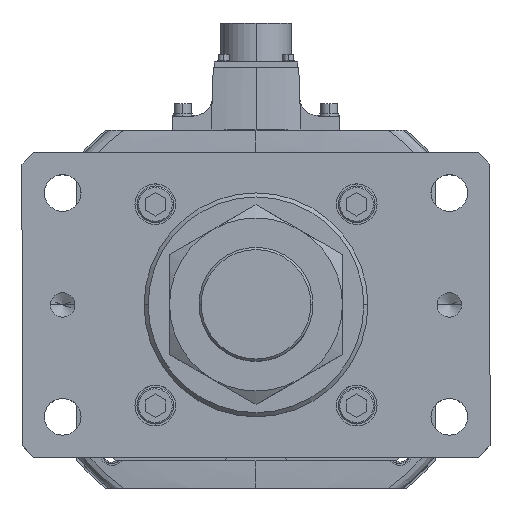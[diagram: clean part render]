
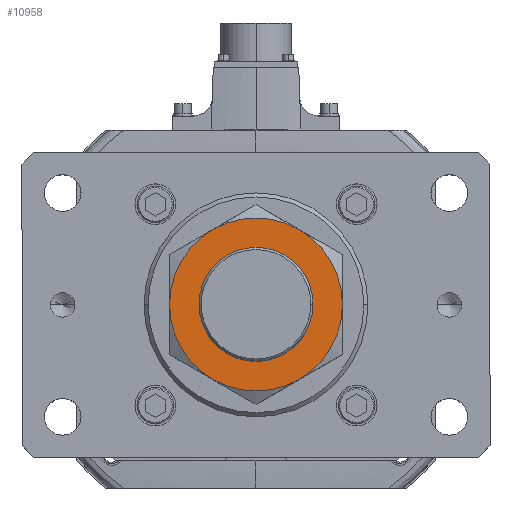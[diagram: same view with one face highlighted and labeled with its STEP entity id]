
A CAD part, top view. The second image highlights one B-rep face of the part: STEP entity #10958.
In plain terms, the highlighted planar face has unit normal (0, 0, 1).
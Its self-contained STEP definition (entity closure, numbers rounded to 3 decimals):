
#661 = DIRECTION ( 'NONE',  ( 0., 0., 1. ) ) ;
#1608 = CIRCLE ( 'NONE', #3230, 42.5 ) ;
#2067 = VERTEX_POINT ( 'NONE', #9846 ) ;
#2108 = AXIS2_PLACEMENT_3D ( 'NONE', #4419, #46595, #42299 ) ;
#2734 = EDGE_CURVE ( 'NONE', #13375, #2067, #14818, .T. ) ;
#2930 = VERTEX_POINT ( 'NONE', #31110 ) ;
#3230 = AXIS2_PLACEMENT_3D ( 'NONE', #7133, #11191, #15237 ) ;
#3301 = DIRECTION ( 'NONE',  ( 0., 0., 1. ) ) ;
#4397 = VERTEX_POINT ( 'NONE', #21436 ) ;
#4419 = CARTESIAN_POINT ( 'NONE',  ( 0., 0., 34. ) ) ;
#4580 = CARTESIAN_POINT ( 'NONE',  ( 28., 0., 34. ) ) ;
#5993 = CARTESIAN_POINT ( 'NONE',  ( 42.5, 0., 34. ) ) ;
#7133 = CARTESIAN_POINT ( 'NONE',  ( 0., 0., 34. ) ) ;
#8895 = CARTESIAN_POINT ( 'NONE',  ( 0., 0., 34. ) ) ;
#9575 = EDGE_CURVE ( 'NONE', #2930, #50430, #11044, .T. ) ;
#9846 = CARTESIAN_POINT ( 'NONE',  ( 21.25, -36.806, 34. ) ) ;
#10378 = EDGE_CURVE ( 'NONE', #13731, #12364, #44610, .T. ) ;
#10446 = CIRCLE ( 'NONE', #10615, 42.5 ) ;
#10596 = ORIENTED_EDGE ( 'NONE', *, *, #9575, .F. ) ;
#10615 = AXIS2_PLACEMENT_3D ( 'NONE', #19490, #49151, #45216 ) ;
#10958 = ADVANCED_FACE ( 'NONE', ( #47268, #35901 ), #17499, .T. ) ;
#11044 = CIRCLE ( 'NONE', #2108, 42.5 ) ;
#11191 = DIRECTION ( 'NONE',  ( 0., 0., -1. ) ) ;
#12200 = CARTESIAN_POINT ( 'NONE',  ( 21.25, 36.806, 34. ) ) ;
#12364 = VERTEX_POINT ( 'NONE', #48359 ) ;
#12594 = DIRECTION ( 'NONE',  ( 0., 0., -1. ) ) ;
#13052 = EDGE_LOOP ( 'NONE', ( #18786, #43193 ) ) ;
#13375 = VERTEX_POINT ( 'NONE', #5993 ) ;
#13731 = VERTEX_POINT ( 'NONE', #31145 ) ;
#14818 = CIRCLE ( 'NONE', #37750, 42.5 ) ;
#15237 = DIRECTION ( 'NONE',  ( 1., 0., 0. ) ) ;
#16806 = EDGE_CURVE ( 'NONE', #12364, #2930, #10446, .T. ) ;
#17312 = CARTESIAN_POINT ( 'NONE',  ( 0., 0., 34. ) ) ;
#17499 = PLANE ( 'NONE',  #23798 ) ;
#17572 = DIRECTION ( 'NONE',  ( 0., 0., -1. ) ) ;
#18503 = AXIS2_PLACEMENT_3D ( 'NONE', #44915, #3301, #33350 ) ;
#18786 = ORIENTED_EDGE ( 'NONE', *, *, #52726, .F. ) ;
#19490 = CARTESIAN_POINT ( 'NONE',  ( 0., 0., 34. ) ) ;
#21436 = CARTESIAN_POINT ( 'NONE',  ( -28., 0., 34. ) ) ;
#22049 = EDGE_CURVE ( 'NONE', #2067, #13731, #28085, .T. ) ;
#22450 = CARTESIAN_POINT ( 'NONE',  ( 0., 0., 34. ) ) ;
#23648 = CARTESIAN_POINT ( 'NONE',  ( 0., 0., 34. ) ) ;
#23798 = AXIS2_PLACEMENT_3D ( 'NONE', #17312, #661, #34075 ) ;
#25745 = AXIS2_PLACEMENT_3D ( 'NONE', #38034, #12594, #42327 ) ;
#26997 = CIRCLE ( 'NONE', #28472, 28. ) ;
#27115 = DIRECTION ( 'NONE',  ( 1., 0., 0. ) ) ;
#27395 = DIRECTION ( 'NONE',  ( 0., 0., -1. ) ) ;
#28085 = CIRCLE ( 'NONE', #25745, 42.5 ) ;
#28472 = AXIS2_PLACEMENT_3D ( 'NONE', #22450, #35309, #27115 ) ;
#30366 = EDGE_CURVE ( 'NONE', #39913, #4397, #54191, .T. ) ;
#30566 = ORIENTED_EDGE ( 'NONE', *, *, #16806, .F. ) ;
#31110 = CARTESIAN_POINT ( 'NONE',  ( -21.25, 36.806, 34. ) ) ;
#31145 = CARTESIAN_POINT ( 'NONE',  ( -21.25, -36.806, 34. ) ) ;
#33350 = DIRECTION ( 'NONE',  ( 1., 0., 0. ) ) ;
#34075 = DIRECTION ( 'NONE',  ( 1., 0., 0. ) ) ;
#35309 = DIRECTION ( 'NONE',  ( 0., 0., 1. ) ) ;
#35901 = FACE_BOUND ( 'NONE', #13052, .T. ) ;
#35956 = AXIS2_PLACEMENT_3D ( 'NONE', #23648, #27395, #36330 ) ;
#36330 = DIRECTION ( 'NONE',  ( 1., 0., 0. ) ) ;
#36557 = ORIENTED_EDGE ( 'NONE', *, *, #10378, .F. ) ;
#37532 = EDGE_LOOP ( 'NONE', ( #45542, #51633, #10596, #30566, #36557, #42851 ) ) ;
#37748 = EDGE_CURVE ( 'NONE', #50430, #13375, #1608, .T. ) ;
#37750 = AXIS2_PLACEMENT_3D ( 'NONE', #8895, #17572, #47373 ) ;
#38034 = CARTESIAN_POINT ( 'NONE',  ( 0., 0., 34. ) ) ;
#39913 = VERTEX_POINT ( 'NONE', #4580 ) ;
#42299 = DIRECTION ( 'NONE',  ( 1., 0., 0. ) ) ;
#42327 = DIRECTION ( 'NONE',  ( 1., 0., 0. ) ) ;
#42851 = ORIENTED_EDGE ( 'NONE', *, *, #22049, .F. ) ;
#43193 = ORIENTED_EDGE ( 'NONE', *, *, #30366, .F. ) ;
#44610 = CIRCLE ( 'NONE', #35956, 42.5 ) ;
#44915 = CARTESIAN_POINT ( 'NONE',  ( 0., 0., 34. ) ) ;
#45216 = DIRECTION ( 'NONE',  ( -1., 0., 0. ) ) ;
#45542 = ORIENTED_EDGE ( 'NONE', *, *, #2734, .F. ) ;
#46595 = DIRECTION ( 'NONE',  ( 0., 0., -1. ) ) ;
#47268 = FACE_OUTER_BOUND ( 'NONE', #37532, .T. ) ;
#47373 = DIRECTION ( 'NONE',  ( 1., 0., 0. ) ) ;
#48359 = CARTESIAN_POINT ( 'NONE',  ( -42.5, 0., 34. ) ) ;
#49151 = DIRECTION ( 'NONE',  ( 0., 0., -1. ) ) ;
#50430 = VERTEX_POINT ( 'NONE', #12200 ) ;
#51633 = ORIENTED_EDGE ( 'NONE', *, *, #37748, .F. ) ;
#52726 = EDGE_CURVE ( 'NONE', #4397, #39913, #26997, .T. ) ;
#54191 = CIRCLE ( 'NONE', #18503, 28. ) ;
